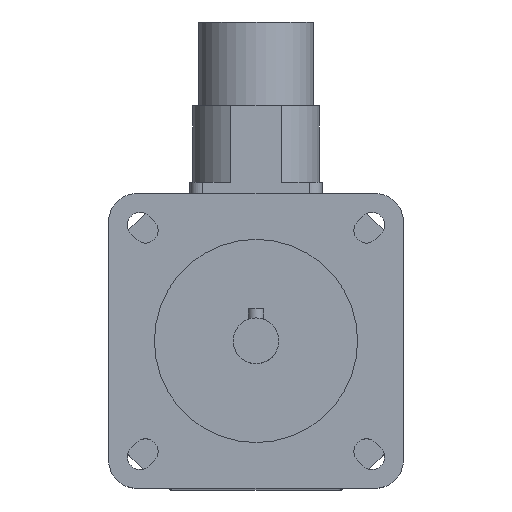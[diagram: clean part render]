
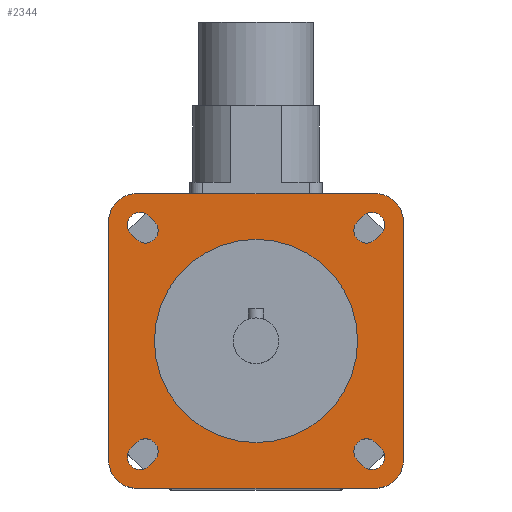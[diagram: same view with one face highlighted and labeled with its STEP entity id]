
A CAD part, top view. The second image highlights one B-rep face of the part: STEP entity #2344.
In plain terms, the highlighted planar face has unit normal (0, 0, 1).
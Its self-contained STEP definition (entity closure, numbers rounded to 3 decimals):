
#28=FACE_BOUND('',#421,.T.);
#29=FACE_BOUND('',#422,.T.);
#30=FACE_BOUND('',#423,.T.);
#31=FACE_BOUND('',#424,.T.);
#32=FACE_BOUND('',#425,.T.);
#46=CIRCLE('',#2435,20.);
#83=CIRCLE('',#2499,2.5);
#87=CIRCLE('',#2506,2.5);
#88=CIRCLE('',#2509,2.5);
#89=CIRCLE('',#2512,2.5);
#99=CIRCLE('',#2527,2.5);
#100=CIRCLE('',#2530,2.5);
#101=CIRCLE('',#2533,2.5);
#102=CIRCLE('',#2536,2.5);
#103=CIRCLE('',#2538,5.5);
#104=CIRCLE('',#2540,5.5);
#105=CIRCLE('',#2542,5.5);
#106=CIRCLE('',#2544,5.5);
#281=FACE_OUTER_BOUND('',#420,.T.);
#420=EDGE_LOOP('',(#1806,#1807,#1808,#1809,#1810,#1811,#1812,#1813));
#421=EDGE_LOOP('',(#1814));
#422=EDGE_LOOP('',(#1815,#1816,#1817,#1818));
#423=EDGE_LOOP('',(#1819,#1820,#1821,#1822));
#424=EDGE_LOOP('',(#1823,#1824,#1825,#1826));
#425=EDGE_LOOP('',(#1827,#1828,#1829,#1830));
#564=LINE('',#3642,#783);
#572=LINE('',#3666,#791);
#576=LINE('',#3676,#795);
#580=LINE('',#3686,#799);
#596=LINE('',#3737,#815);
#598=LINE('',#3743,#817);
#600=LINE('',#3749,#819);
#602=LINE('',#3755,#821);
#611=LINE('',#3783,#830);
#612=LINE('',#3784,#831);
#613=LINE('',#3785,#832);
#614=LINE('',#3786,#833);
#783=VECTOR('',#2885,1.5);
#791=VECTOR('',#2907,1.5);
#795=VECTOR('',#2917,1.5);
#799=VECTOR('',#2927,1.5);
#815=VECTOR('',#2973,1.5);
#817=VECTOR('',#2981,1.5);
#819=VECTOR('',#2989,1.5);
#821=VECTOR('',#2997,1.5);
#830=VECTOR('',#3028,47.);
#831=VECTOR('',#3029,47.);
#832=VECTOR('',#3030,47.);
#833=VECTOR('',#3031,47.);
#956=VERTEX_POINT('',#3463);
#1021=VERTEX_POINT('',#3639);
#1022=VERTEX_POINT('',#3641);
#1023=VERTEX_POINT('',#3645);
#1030=VERTEX_POINT('',#3663);
#1031=VERTEX_POINT('',#3665);
#1032=VERTEX_POINT('',#3669);
#1033=VERTEX_POINT('',#3673);
#1034=VERTEX_POINT('',#3675);
#1035=VERTEX_POINT('',#3679);
#1036=VERTEX_POINT('',#3683);
#1037=VERTEX_POINT('',#3685);
#1038=VERTEX_POINT('',#3689);
#1057=VERTEX_POINT('',#3735);
#1058=VERTEX_POINT('',#3741);
#1059=VERTEX_POINT('',#3747);
#1060=VERTEX_POINT('',#3753);
#1061=VERTEX_POINT('',#3759);
#1062=VERTEX_POINT('',#3761);
#1063=VERTEX_POINT('',#3765);
#1064=VERTEX_POINT('',#3767);
#1065=VERTEX_POINT('',#3771);
#1066=VERTEX_POINT('',#3773);
#1067=VERTEX_POINT('',#3777);
#1068=VERTEX_POINT('',#3779);
#1190=EDGE_CURVE('',#956,#956,#46,.T.);
#1276=EDGE_CURVE('',#1022,#1021,#564,.T.);
#1279=EDGE_CURVE('',#1021,#1023,#83,.T.);
#1288=EDGE_CURVE('',#1031,#1030,#572,.T.);
#1291=EDGE_CURVE('',#1030,#1032,#87,.T.);
#1293=EDGE_CURVE('',#1034,#1033,#576,.T.);
#1296=EDGE_CURVE('',#1033,#1035,#88,.T.);
#1298=EDGE_CURVE('',#1037,#1036,#580,.T.);
#1301=EDGE_CURVE('',#1036,#1038,#89,.T.);
#1324=EDGE_CURVE('',#1035,#1057,#596,.T.);
#1325=EDGE_CURVE('',#1057,#1034,#99,.T.);
#1327=EDGE_CURVE('',#1032,#1058,#598,.T.);
#1328=EDGE_CURVE('',#1058,#1031,#100,.T.);
#1330=EDGE_CURVE('',#1038,#1059,#600,.T.);
#1331=EDGE_CURVE('',#1059,#1037,#101,.T.);
#1333=EDGE_CURVE('',#1023,#1060,#602,.T.);
#1334=EDGE_CURVE('',#1060,#1022,#102,.T.);
#1336=EDGE_CURVE('',#1062,#1061,#103,.T.);
#1339=EDGE_CURVE('',#1064,#1063,#104,.T.);
#1342=EDGE_CURVE('',#1066,#1065,#105,.T.);
#1345=EDGE_CURVE('',#1068,#1067,#106,.T.);
#1347=EDGE_CURVE('',#1061,#1068,#611,.T.);
#1348=EDGE_CURVE('',#1067,#1066,#612,.T.);
#1349=EDGE_CURVE('',#1065,#1064,#613,.T.);
#1350=EDGE_CURVE('',#1063,#1062,#614,.T.);
#1806=ORIENTED_EDGE('',*,*,#1347,.T.);
#1807=ORIENTED_EDGE('',*,*,#1345,.T.);
#1808=ORIENTED_EDGE('',*,*,#1348,.T.);
#1809=ORIENTED_EDGE('',*,*,#1342,.T.);
#1810=ORIENTED_EDGE('',*,*,#1349,.T.);
#1811=ORIENTED_EDGE('',*,*,#1339,.T.);
#1812=ORIENTED_EDGE('',*,*,#1350,.T.);
#1813=ORIENTED_EDGE('',*,*,#1336,.T.);
#1814=ORIENTED_EDGE('',*,*,#1190,.T.);
#1815=ORIENTED_EDGE('',*,*,#1324,.T.);
#1816=ORIENTED_EDGE('',*,*,#1325,.T.);
#1817=ORIENTED_EDGE('',*,*,#1293,.T.);
#1818=ORIENTED_EDGE('',*,*,#1296,.T.);
#1819=ORIENTED_EDGE('',*,*,#1327,.T.);
#1820=ORIENTED_EDGE('',*,*,#1328,.T.);
#1821=ORIENTED_EDGE('',*,*,#1288,.T.);
#1822=ORIENTED_EDGE('',*,*,#1291,.T.);
#1823=ORIENTED_EDGE('',*,*,#1330,.T.);
#1824=ORIENTED_EDGE('',*,*,#1331,.T.);
#1825=ORIENTED_EDGE('',*,*,#1298,.T.);
#1826=ORIENTED_EDGE('',*,*,#1301,.T.);
#1827=ORIENTED_EDGE('',*,*,#1333,.T.);
#1828=ORIENTED_EDGE('',*,*,#1334,.T.);
#1829=ORIENTED_EDGE('',*,*,#1276,.T.);
#1830=ORIENTED_EDGE('',*,*,#1279,.T.);
#2248=PLANE('',#2545);
#2344=ADVANCED_FACE('',(#281,#28,#29,#30,#31,#32),#2248,.T.);
#2435=AXIS2_PLACEMENT_3D('',#3464,#2710,#2711);
#2499=AXIS2_PLACEMENT_3D('',#3647,#2890,#2891);
#2506=AXIS2_PLACEMENT_3D('',#3671,#2912,#2913);
#2509=AXIS2_PLACEMENT_3D('',#3681,#2922,#2923);
#2512=AXIS2_PLACEMENT_3D('',#3691,#2932,#2933);
#2527=AXIS2_PLACEMENT_3D('',#3739,#2976,#2977);
#2530=AXIS2_PLACEMENT_3D('',#3745,#2984,#2985);
#2533=AXIS2_PLACEMENT_3D('',#3751,#2992,#2993);
#2536=AXIS2_PLACEMENT_3D('',#3757,#3000,#3001);
#2538=AXIS2_PLACEMENT_3D('',#3762,#3005,#3006);
#2540=AXIS2_PLACEMENT_3D('',#3768,#3011,#3012);
#2542=AXIS2_PLACEMENT_3D('',#3774,#3017,#3018);
#2544=AXIS2_PLACEMENT_3D('',#3780,#3023,#3024);
#2545=AXIS2_PLACEMENT_3D('',#3782,#3026,#3027);
#2710=DIRECTION('center_axis',(0.,0.,-1.));
#2711=DIRECTION('ref_axis',(-1.,0.,0.));
#2885=DIRECTION('',(-0.707,-0.707,0.));
#2890=DIRECTION('center_axis',(0.,0.,-1.));
#2891=DIRECTION('ref_axis',(0.707,-0.707,0.));
#2907=DIRECTION('',(-0.707,0.707,0.));
#2912=DIRECTION('center_axis',(0.,0.,-1.));
#2913=DIRECTION('ref_axis',(-0.707,-0.707,0.));
#2917=DIRECTION('',(-0.707,-0.707,0.));
#2922=DIRECTION('center_axis',(0.,0.,-1.));
#2923=DIRECTION('ref_axis',(0.707,-0.707,0.));
#2927=DIRECTION('',(-0.707,0.707,0.));
#2932=DIRECTION('center_axis',(0.,0.,-1.));
#2933=DIRECTION('ref_axis',(-0.707,-0.707,0.));
#2973=DIRECTION('',(0.707,0.707,0.));
#2976=DIRECTION('center_axis',(0.,0.,-1.));
#2977=DIRECTION('ref_axis',(-0.707,0.707,0.));
#2981=DIRECTION('',(0.707,-0.707,0.));
#2984=DIRECTION('center_axis',(0.,0.,-1.));
#2985=DIRECTION('ref_axis',(0.707,0.707,0.));
#2989=DIRECTION('',(0.707,-0.707,0.));
#2992=DIRECTION('center_axis',(0.,0.,-1.));
#2993=DIRECTION('ref_axis',(0.707,0.707,0.));
#2997=DIRECTION('',(0.707,0.707,0.));
#3000=DIRECTION('center_axis',(0.,0.,-1.));
#3001=DIRECTION('ref_axis',(-0.707,0.707,0.));
#3005=DIRECTION('center_axis',(0.,0.,1.));
#3006=DIRECTION('ref_axis',(1.,0.,0.));
#3011=DIRECTION('center_axis',(0.,0.,1.));
#3012=DIRECTION('ref_axis',(0.,-1.,0.));
#3017=DIRECTION('center_axis',(0.,0.,1.));
#3018=DIRECTION('ref_axis',(-1.,0.,0.));
#3023=DIRECTION('center_axis',(0.,0.,1.));
#3024=DIRECTION('ref_axis',(0.,1.,0.));
#3026=DIRECTION('center_axis',(0.,0.,1.));
#3027=DIRECTION('ref_axis',(1.,0.,0.));
#3028=DIRECTION('',(-1.,0.,0.));
#3029=DIRECTION('',(0.,-1.,0.));
#3030=DIRECTION('',(1.,0.,0.));
#3031=DIRECTION('',(0.,1.,0.));
#3463=CARTESIAN_POINT('',(20.,0.,172.));
#3464=CARTESIAN_POINT('Origin',(0.,0.,172.));
#3639=CARTESIAN_POINT('',(-21.036,-24.572,172.));
#3641=CARTESIAN_POINT('',(-19.976,-23.511,172.));
#3642=CARTESIAN_POINT('',(-9.634,-13.17,172.));
#3645=CARTESIAN_POINT('',(-24.572,-21.036,172.));
#3647=CARTESIAN_POINT('Origin',(-22.804,-22.804,172.));
#3663=CARTESIAN_POINT('',(-24.572,21.036,172.));
#3665=CARTESIAN_POINT('',(-23.511,19.976,172.));
#3666=CARTESIAN_POINT('',(-13.17,9.634,172.));
#3669=CARTESIAN_POINT('',(-21.036,24.572,172.));
#3671=CARTESIAN_POINT('Origin',(-22.804,22.804,172.));
#3673=CARTESIAN_POINT('',(23.511,19.976,172.));
#3675=CARTESIAN_POINT('',(24.572,21.036,172.));
#3676=CARTESIAN_POINT('',(12.64,9.104,172.));
#3679=CARTESIAN_POINT('',(19.976,23.511,172.));
#3681=CARTESIAN_POINT('Origin',(21.744,21.744,172.));
#3683=CARTESIAN_POINT('',(19.976,-23.511,172.));
#3685=CARTESIAN_POINT('',(21.036,-24.572,172.));
#3686=CARTESIAN_POINT('',(9.104,-12.64,172.));
#3689=CARTESIAN_POINT('',(23.511,-19.976,172.));
#3691=CARTESIAN_POINT('Origin',(21.744,-21.744,172.));
#3735=CARTESIAN_POINT('',(21.036,24.572,172.));
#3737=CARTESIAN_POINT('',(9.634,13.17,172.));
#3739=CARTESIAN_POINT('Origin',(22.804,22.804,172.));
#3741=CARTESIAN_POINT('',(-19.976,23.511,172.));
#3743=CARTESIAN_POINT('',(-9.104,12.64,172.));
#3745=CARTESIAN_POINT('Origin',(-21.744,21.744,172.));
#3747=CARTESIAN_POINT('',(24.572,-21.036,172.));
#3749=CARTESIAN_POINT('',(13.17,-9.634,172.));
#3751=CARTESIAN_POINT('Origin',(22.804,-22.804,172.));
#3753=CARTESIAN_POINT('',(-23.511,-19.976,172.));
#3755=CARTESIAN_POINT('',(-12.64,-9.104,172.));
#3757=CARTESIAN_POINT('Origin',(-21.744,-21.744,172.));
#3759=CARTESIAN_POINT('',(23.5,29.,172.));
#3761=CARTESIAN_POINT('',(29.,23.5,172.));
#3762=CARTESIAN_POINT('Origin',(23.5,23.5,172.));
#3765=CARTESIAN_POINT('',(29.,-23.5,172.));
#3767=CARTESIAN_POINT('',(23.5,-29.,172.));
#3768=CARTESIAN_POINT('Origin',(23.5,-23.5,172.));
#3771=CARTESIAN_POINT('',(-23.5,-29.,172.));
#3773=CARTESIAN_POINT('',(-29.,-23.5,172.));
#3774=CARTESIAN_POINT('Origin',(-23.5,-23.5,172.));
#3777=CARTESIAN_POINT('',(-29.,23.5,172.));
#3779=CARTESIAN_POINT('',(-23.5,29.,172.));
#3780=CARTESIAN_POINT('Origin',(-23.5,23.5,172.));
#3782=CARTESIAN_POINT('Origin',(0.,0.,
172.));
#3783=CARTESIAN_POINT('',(23.5,29.,172.));
#3784=CARTESIAN_POINT('',(-29.,23.5,172.));
#3785=CARTESIAN_POINT('',(-23.5,-29.,172.));
#3786=CARTESIAN_POINT('',(29.,-23.5,172.));
